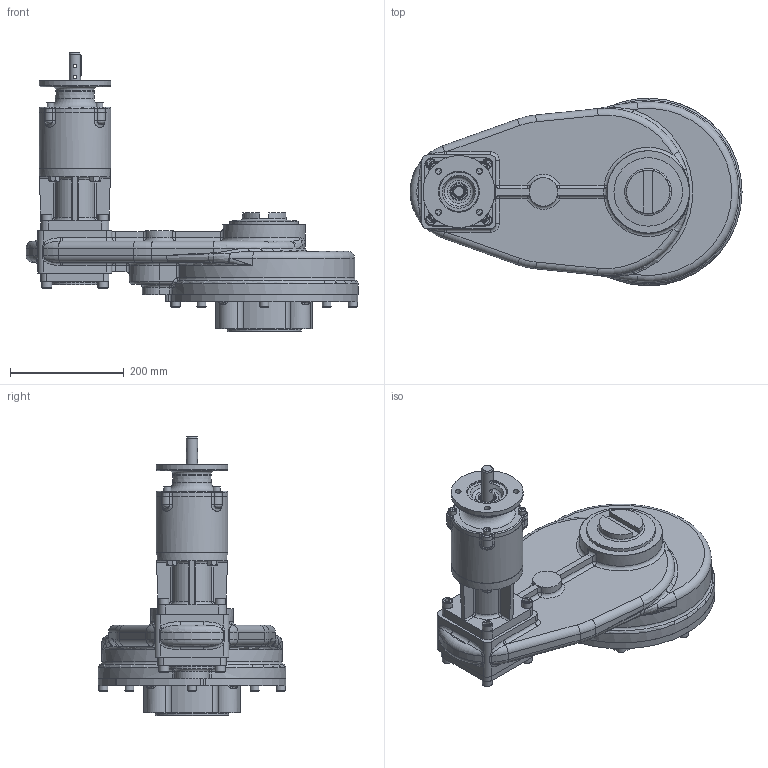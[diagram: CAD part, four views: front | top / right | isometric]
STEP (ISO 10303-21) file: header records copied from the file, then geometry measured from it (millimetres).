
FILE_DESCRIPTION( ( 'Unknown' ), '1' );
FILE_NAME( 'X:/CURRENT/PUB/Hos/HOS 2015/HOS-MPR/HOS-MPR-Models/PUB-HOS8MPR4-25.5-E-F16.stp', 'Unknown', ( 'Unknown' ), ( 'Unknown' ), 'PSStep 16.0.42', 'Unknown', ' ' );
FILE_SCHEMA( ( 'AUTOMOTIVE_DESIGN { 1 0 10303 214 1 1 1 1 }' ) );
Length unit declared in the file: millimetre
Products named in the file (42): 1; 2; 3; 4; 5; 6; 7; 8; 9; 10; 11; 12; 13; 14; 15; 16; 17; 18; 19; 20; 21; 22; 23; 24; trelleborg_trea00200-n7mm_b5c67wtxxcj74kwnwb2box077_01; 25; 26; 27; 28; 29; 30; 31; 32; 33; 34; 35; 36; 37; 38; 39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
Bounding box: 584.05 x 330 x 491.35 mm (x, y, z)
Surface area: 740506.3 mm2 (no closed solid volume)
Topology: 0 solids, 796 shells, 796 faces, 3662 edges, 3542 vertices
Faces by surface type: plane 282, cylinder 202, torus 125, bspline 104, cone 65, sphere 18
Full cylindrical faces by diameter (mm): 6 x2, 10.5 x4, 13.27 x4, 16 x8, 16.299 x4, 18 x8, 20 x1, 30 x1, 40 x1, 50 x1, 70 x1, 80 x1, 90.15 x1, 120.65 x1, 125 x1, 126 x1, 129.95 x1, 139.98 x1, 145 x1
Entity records: 70369 total; most frequent: CARTESIAN_POINT 36560, DIRECTION 5875, ORIENTED_EDGE 3502, EDGE_CURVE 3502, VERTEX_POINT 3502, AXIS2_PLACEMENT_3D 2241, CIRCLE 1487, LINE 1393
